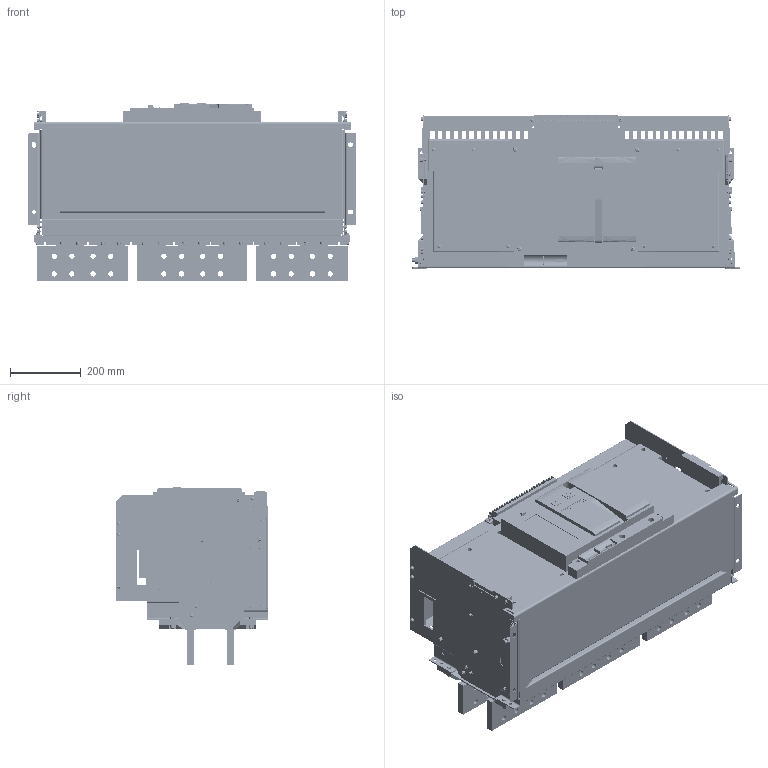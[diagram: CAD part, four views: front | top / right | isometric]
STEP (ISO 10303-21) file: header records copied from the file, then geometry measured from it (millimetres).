
FILE_DESCRIPTION (( 'STEP AP214' ), '1' );
FILE_NAME ('TGW1N-6300 D 3P 4000 (1).STEP', '2026-01-26T13:59:39', ( '' ), ( '' ), 'SwSTEP 2.0', 'SolidWorks 2024', '' );
FILE_SCHEMA (( 'AUTOMOTIVE_DESIGN' ));
Length unit declared in the file: millimetre
Products named in the file (32): _-_______.STEP; _________ _________________ _______ _____.STEP; _______ _____ ________.STEP; _______ 1600 ________.STEP; _________ ________Railing.STEP; _________ _______ _____.STEP; hex screw gradeab_iso_ISO 4017 - M5 x 12-N.STEP; hex nut style 2 gradeab_iso_ISO - 4033 - M8 - W - N.STEP; _____________ _____.STEP; hex thin nut chamfered gradeab_iso_ISO - 4035 - M10 - N.STEP; pan head cross recess screw_iso_ISO 7045 - M5 x 8 - Z - 8N.STEP; hex screw gradeab_iso_ISO 4017 - M5 x 10-N.STEP; TGW1N-6300 D 3P 4900A-6300A  (1).STEP; Railing.STEP; ____.STEP; ________ _ ______.STEP; ______________ _____.STEP; hex nut style 2 gradeab_iso_ISO - 4033 - M6 - W - N.STEP; _________ _______________ _____ ________.STEP; ________ _____.STEP; lock washer spring regular_ai_Regular LW 0.216.STEP; pan head cross recess screw_iso_ISO 7045 - M6 x 12 - Z - 12N.STEP; lock washer spring heavy_ai_Heavy LW 0.4375.STEP; ___________ _____.STEP; ________.STEP; _________ 3200.STEP; lock washer spring heavy_ai_Heavy LW 0.216.STEP; lock washer spring heavy_ai_Heavy LW 0.3125.STEP; hex screw gradeab_iso_ISO 4017 - M6 x 30-N.STEP; TGW1N-6300 D 3P 4000 (1); plain washer 10673 type snl_iso_ISO 10673-5.5-S.STEP; hex screw gradeab_iso_ISO 4017 - M10 x 35-N.STEP
Assembly tree (350 placements, depth 3):
  TGW1N-6300 D 3P 4000 (1)
    TGW1N-6300 D 3P 4900A-6300A  (1).STEP
      ______________ _____.STEP
      ____.STEP
      _____________ _____.STEP
      ___________ _____.STEP  x2
      _________ _______ _____.STEP
      ________ _ ______.STEP
      ________.STEP
      ________ _____.STEP
      Railing.STEP
      _______ 1600 ________.STEP
      _________ ________Railing.STEP
      _________ _________________ _______ _____.STEP
      plain washer 10673 type snl_iso_ISO 10673-5.5-S.STEP  x104
      lock washer spring regular_ai_Regular LW 0.216.STEP
      hex screw gradeab_iso_ISO 4017 - M5 x 12-N.STEP  x5
      lock washer spring heavy_ai_Heavy LW 0.216.STEP  x100
      hex screw gradeab_iso_ISO 4017 - M5 x 10-N.STEP  x72
      hex screw gradeab_iso_ISO 4017 - M6 x 30-N.STEP  x4
      lock washer spring heavy_ai_Heavy LW 0.3125.STEP
      hex nut style 2 gradeab_iso_ISO - 4033 - M8 - W - N.STEP
      hex nut style 2 gradeab_iso_ISO - 4033 - M6 - W - N.STEP  x8
      pan head cross recess screw_iso_ISO 7045 - M5 x 8 - Z - 8N.STEP  x27
      pan head cross recess screw_iso_ISO 7045 - M6 x 12 - Z - 12N.STEP  x4
      hex screw gradeab_iso_ISO 4017 - M10 x 35-N.STEP
      lock washer spring heavy_ai_Heavy LW 0.4375.STEP
      hex thin nut chamfered gradeab_iso_ISO - 4035 - M10 - N.STEP  x2
      _________ 3200.STEP
      _______ _____ ________.STEP
      _________ _______________ _____ ________.STEP
      _-_______.STEP  x2
Bounding box: 927 x 432 x 503 mm (x, y, z)
Volume: 87863657.2 mm3; surface area: 5722851.5 mm2
Topology: 395 solids, 395 shells, 7187 faces, 16512 edges, 10203 vertices
Faces by surface type: plane 3936, cylinder 1932, cone 964, torus 288, sphere 64, bspline 3
Entity records: 81636 total; most frequent: CARTESIAN_POINT 15223, DIRECTION 13758, ORIENTED_EDGE 12796, EDGE_CURVE 6398, AXIS2_PLACEMENT_3D 4680, LINE 4398, VECTOR 4398, VERTEX_POINT 4130
